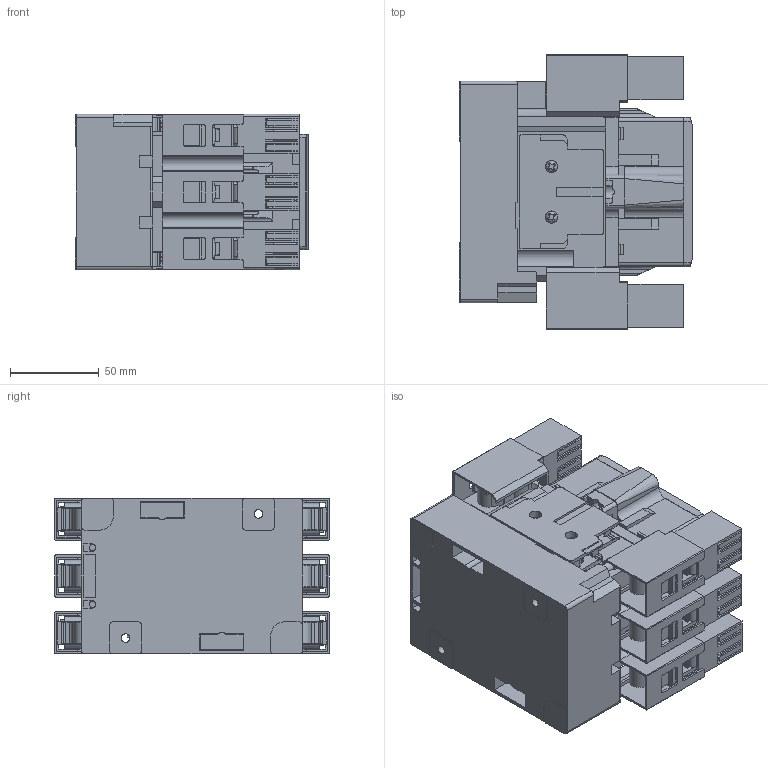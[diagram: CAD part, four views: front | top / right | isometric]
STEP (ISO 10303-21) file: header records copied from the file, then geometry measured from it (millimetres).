
FILE_DESCRIPTION (( 'STEP AP214' ), '1' );
FILE_NAME ('SC-E5.STEP', '2016-03-08T07:04:08', ( '川崎工場' ), ( '富士電機株式会社' ), 'SwSTEP 2.0', 'SolidWorks 2015', '' );
FILE_SCHEMA (( 'AUTOMOTIVE_DESIGN' ));
Length unit declared in the file: millimetre
Products named in the file (26): Screw_M4_L20; SC-N-Copper band1; Finger protection^SC-E5; SC-N-Auxiliary terminal unit_case; hexagon socket set screw M8L35; Screw_M3.5_L7_端子板付; SC-E5_Box terminal structure part2; SC-E5_Case_top; SC-E5_Box terminal structure part1; SC-E5_Case_base; SC-E5_Finger protection part2; SC-E5_Finger protection part1; SC-E5; SC-E5_Switch; SC-E5_Terminal plate right; SC-E5_Terminal plate left; SC-E5_Terminal plate center; SC-N-Auxiliary terminal unit with terminal cover; SC-N-Teminal cover; Washer_M3P5; Screw_M3.5_L14; ScrewM3P5L10_Set; Screw_M3.5_L10; Springwasher_M3P5; Plate_M3P5_7P7; SC-N-Copper band2
Assembly tree (49 placements, depth 4):
  SC-E5
    SC-E5_Case_base
    SC-E5_Case_top
    Screw_M3.5_L7_端子板付  x2
    SC-N-Auxiliary terminal unit with terminal cover  x2
      SC-N-Auxiliary terminal unit_case
      SC-N-Copper band1
      SC-N-Copper band2
      ScrewM3P5L10_Set
        Plate_M3P5_7P7
        Springwasher_M3P5
        Screw_M3.5_L10
      Screw_M3.5_L14
      Springwasher_M3P5
      Washer_M3P5
      SC-N-Teminal cover
    SC-N-Teminal cover  x2
    SC-E5_Terminal plate center  x2
    SC-E5_Terminal plate left  x2
    SC-E5_Terminal plate right  x2
    SC-E5_Switch
    SC-E5_Finger protection part1  x2
    Finger protection^SC-E5  x6
      SC-E5_Finger protection part2
      SC-E5_Box terminal structure part1
      SC-E5_Box terminal structure part2
      hexagon socket set screw M8L35
    Screw_M4_L20  x2
Bounding box: 131.7 x 155 x 88 mm (x, y, z)
Volume: 1011891.3 mm3; surface area: 329026.5 mm2
Topology: 92 solids, 92 shells, 4713 faces, 13529 edges, 8925 vertices
Faces by surface type: plane 3945, cylinder 640, bspline 64, cone 46, torus 18
Full cylindrical faces by diameter (mm): 3 x12, 3.5 x32, 3.8 x20, 4 x2, 4.8 x2, 6.5 x6, 6.6 x6, 7 x8, 8 x10
Entity records: 60361 total; most frequent: CARTESIAN_POINT 12920, ORIENTED_EDGE 10008, DIRECTION 8926, EDGE_CURVE 5004, LINE 4202, VECTOR 4202, VERTEX_POINT 3338, AXIS2_PLACEMENT_3D 2362
